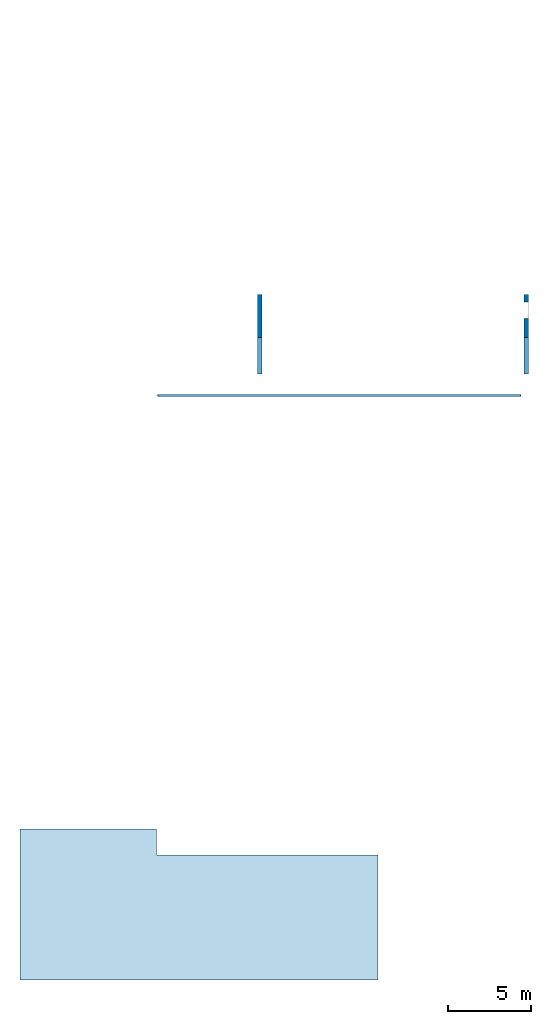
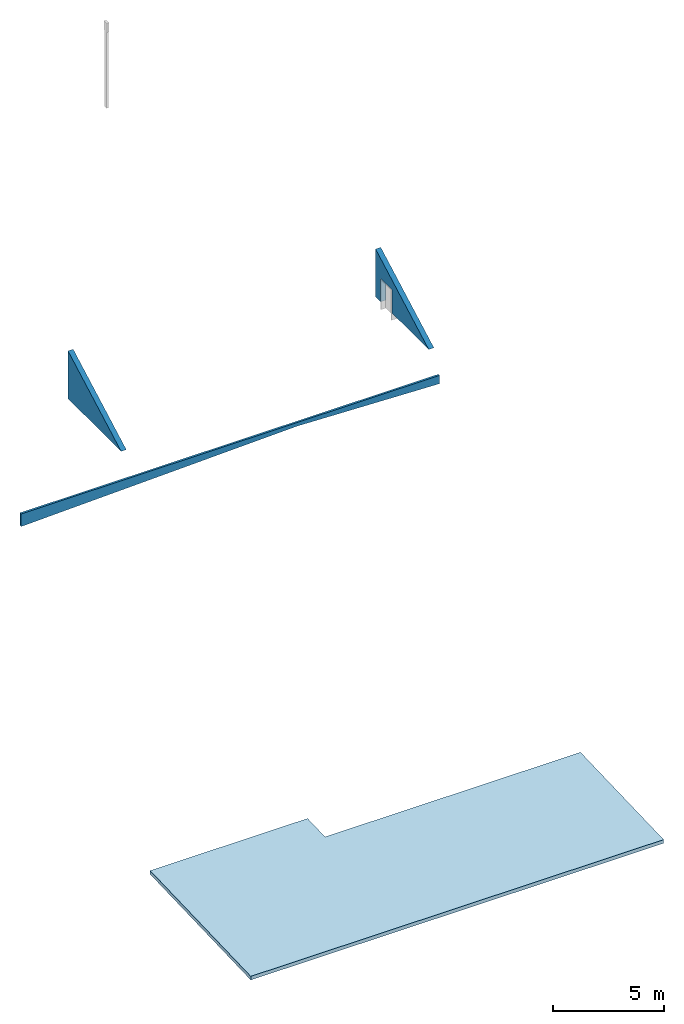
# One storey, part 1 of 3: 3 walls, 1 slab, 2 openings, 1 element without a shape of its own.
"""IFC2X3 building model written with IfcOpenShell, lengths in centimetres."""

from ifc_helpers import new_model, entity, si_unit, converted_unit, derived_unit, direction, frame, frame_2d, origin, place, context, subcontext, project, spatial, polyline, rectangle, outline, extrude, clip, halfspace, faceted_brep, material, layer, layer_set, layer_usage, type_object, element, aggregate, save


model = new_model("IFC2X3")

# Units and contexts
model_context = context("Model", 3, precision=0.001, world=origin(), true_north=direction((6.12303176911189e-17, 1.0)))
body_context = subcontext(model_context, "Body", "Model", "MODEL_VIEW")
ifc_project = project(units=[si_unit("LENGTHUNIT", "METRE", prefix="CENTI"), si_unit("AREAUNIT", "SQUARE_METRE"), si_unit("VOLUMEUNIT", "CUBIC_METRE"), converted_unit("PLANEANGLEUNIT", "DEGREE", entity("IfcRatioMeasure", 0.0174532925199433), si_unit("PLANEANGLEUNIT", "RADIAN"), dimensions=[0, 0, 0, 0, 0, 0, 0]), si_unit("MASSUNIT", "GRAM", prefix="KILO"), si_unit("TIMEUNIT", "SECOND"), si_unit("FREQUENCYUNIT", "HERTZ"), si_unit("THERMODYNAMICTEMPERATUREUNIT", "DEGREE_CELSIUS"), derived_unit("THERMALTRANSMITTANCEUNIT", [(si_unit("MASSUNIT", "GRAM", prefix="KILO"), 1), (si_unit("THERMODYNAMICTEMPERATUREUNIT", "KELVIN"), -1), (si_unit("TIMEUNIT", "SECOND"), -3)]), derived_unit("VOLUMETRICFLOWRATEUNIT", [(si_unit("LENGTHUNIT", "METRE"), 3), (si_unit("TIMEUNIT", "SECOND"), -1)]), si_unit("ELECTRICCURRENTUNIT", "AMPERE"), si_unit("ELECTRICVOLTAGEUNIT", "VOLT"), si_unit("POWERUNIT", "WATT"), si_unit("FORCEUNIT", "NEWTON", prefix="KILO"), si_unit("ILLUMINANCEUNIT", "LUX"), si_unit("LUMINOUSFLUXUNIT", "LUMEN"), si_unit("LUMINOUSINTENSITYUNIT", "CANDELA"), derived_unit("USERDEFINED", [(si_unit("MASSUNIT", "GRAM", prefix="KILO"), -1), (si_unit("LENGTHUNIT", "METRE"), -2), (si_unit("TIMEUNIT", "SECOND"), 3), (si_unit("LUMINOUSFLUXUNIT", "LUMEN"), 1)]), derived_unit("LINEARVELOCITYUNIT", [(si_unit("LENGTHUNIT", "METRE"), 1), (si_unit("TIMEUNIT", "SECOND"), -1)]), si_unit("PRESSUREUNIT", "PASCAL"), derived_unit("USERDEFINED", [(si_unit("LENGTHUNIT", "METRE"), -2), (si_unit("MASSUNIT", "GRAM", prefix="KILO"), 1), (si_unit("TIMEUNIT", "SECOND"), -2)])], contexts=[model_context])

# Site, building, storey
site_placement = place(None, frame((8.62739174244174, -249.285249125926, 0.0)))
site = spatial("IfcSite", under=ifc_project, at=site_placement, Name="Default", CompositionType="ELEMENT")
building_placement = place(site_placement, origin())
building = spatial("IfcBuilding", under=site, at=building_placement, CompositionType="ELEMENT")
storey_placement = place(building_placement, frame((0.0, 0.0, 722.0)))
storey = spatial("IfcBuildingStorey", under=building, at=storey_placement, Name="Acrotère E2", CompositionType="ELEMENT", Elevation=722.0)

# Roof, slab
roof_placement = place(storey_placement, frame((22.0, 22.0, -71.5)))
roof = element("IfcRoof", 1, at=roof_placement, inside=storey, Name="Toit de base:Toit_Multicouche_20 cm", ObjectType="Toit de base:Toit_Multicouche_20 cm", ShapeType="NOTDEFINED")
ifc_material_1 = material(Name="Toiture, membrane EPDM")
ifc_layer_1 = layer(ifc_material_1, 2.0)
ifc_material_2 = material(Name="Laine minérale")
ifc_layer_2 = layer(ifc_material_2, 10.5)
ifc_material_3 = material(Name="Acier")
ifc_layer_3 = layer(ifc_material_3, 7.5)
ifc_layer_set_1 = layer_set([ifc_layer_1, ifc_layer_2, ifc_layer_3], Name="Toit de base:Toit_Multicouche_20 cm")
slab_placement = place(roof_placement, origin())
slab = element("IfcSlab", 2, at=slab_placement, material=ifc_layer_set_1, Name="Toit de base:Toit_Multicouche_20 cm", ObjectType="Toit de base:Toit_Multicouche_20 cm", PredefinedType="ROOF", context=body_context, shape_type="SweptSolid", body=[
    extrude(outline(polyline([(-1076.45241390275, -454.777037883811), (1076.45241390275, -454.777037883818), (1076.45241390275, 296.680729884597), (-255.552413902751, 296.680729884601), (-255.552413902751, 454.777037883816), (-1076.45241390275, 454.777037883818), (-1076.45241390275, -454.777037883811)])), frame((1076.45241390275, 454.500000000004, 15.8714897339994), z_axis=(0.0, -0.0348994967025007, 0.999390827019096), x_axis=(1.0, 0.0, 0.0)), (0.0, 0.0348994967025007, 0.999390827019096), 20.0121908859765),
])
aggregate(roof, [slab])

# Wall
ifc_material_4 = material(Name="Tôle/Doublage(PROJET)")
ifc_layer_4 = layer(ifc_material_4, 4.0)
ifc_layer_5 = layer(ifc_material_2, 22.0)
ifc_material_5 = material(Name="Plateau-acier-perforé")
ifc_layer_6 = layer(ifc_material_5, 1.0)
ifc_layer_set_2 = layer_set([ifc_layer_4, ifc_layer_5, ifc_layer_6], Name="Mur de base:MET PROJET 4 + ISO 23 + MET 2 bis")
wall_type_1 = type_object("IfcWallType", Name="Mur de base:MET PROJET 4 + ISO 23 + MET 2 bis", PredefinedType="STANDARD", material=ifc_layer_set_2)
wall_1_placement = place(storey_placement, frame((1463.4048277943, 4146.47531195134, 133.0), z_axis=(0.0, 0.0, 1.0), x_axis=(0.0, -1.0, 0.0)))
element("IfcWall", 3, at=wall_1_placement, inside=storey, type_object=wall_type_1, Name="Mur de base:MET PROJET 4 + ISO 23 + MET 2 bis", ObjectType="Mur de base:MET PROJET 4 + ISO 23 + MET 2 bis", context=body_context, shape_type="Brep", body=[
    faceted_brep([(480.399999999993, -13.5, 0.0), (0.0, -13.5, 263.0), (0.0, -13.5, 0.0), (480.399999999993, 13.4999999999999, 0.0), (0.0, 13.4999999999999, 0.0), (0.0, 13.4999999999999, 263.0), (0.0, -12.5, 0.0), (480.399999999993, -12.5, 0.0)], [[[0, 1, 2]], [[3, 4, 5]], [[2, 1, 5, 4, 6]], [[1, 0, 7, 3, 5]], [[0, 2, 6, 7]], [[6, 4, 3, 7]]]),
])

# Wall, opening
wall_type_2 = type_object("IfcWallType", Name="Mur de base:MET PROJET 4 + ISO 23 + MET 1", PredefinedType="NOTDEFINED")
wall_2_placement = place(storey_placement, frame((3067.40482781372, 4146.47531195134, 133.0), z_axis=(0.0, 0.0, 1.0), x_axis=(0.0, -1.0, 0.0)))
wall_2 = element("IfcWall", 4, at=wall_2_placement, inside=storey, type_object=wall_type_2, Name="Mur de base:MET PROJET 4 + ISO 23 + MET 1", ObjectType="Mur de base:MET PROJET 4 + ISO 23 + MET 1", context=body_context, shape_type="Brep", body=[
    faceted_brep([(0.0, -13.5, 263.0), (0.0, -13.5, 0.0), (46.2945842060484, -13.4999999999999, 0.0), (46.2945842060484, -13.4999999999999, 127.500000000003), (146.294584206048, -13.4999999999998, 127.500000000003), (146.294584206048, -13.4999999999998, 0.0), (480.39999999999, -13.4999999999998, 0.0), (0.0, 13.4999999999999, 0.0), (0.0, 13.4999999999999, 263.0), (480.39999999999, 13.5000000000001, 0.0), (146.294584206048, 13.5000000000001, 0.0), (146.294584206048, 13.5000000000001, 127.500000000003), (46.2945842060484, 13.5, 127.500000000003), (46.2945842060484, 13.5, 0.0), (0.0, 12.5000000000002, 0.0), (46.2945842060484, 12.5000000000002, 0.0), (146.294584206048, 12.5000000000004, 0.0), (480.39999999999, 12.5000000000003, 0.0)], [[[0, 1, 2, 3, 4, 5, 6]], [[7, 8, 9, 10, 11, 12, 13]], [[1, 0, 8, 7, 14]], [[12, 3, 2, 15, 13]], [[3, 12, 11, 4]], [[4, 11, 10, 16, 5]], [[0, 6, 17, 9, 8]], [[9, 17, 16, 10]], [[17, 6, 5, 16]], [[1, 14, 15, 2]], [[14, 7, 13, 15]]]),
])
opening_1_placement = place(wall_2_placement, frame((46.2945842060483, -13.5, -41.0)))
element("IfcOpeningElement", 5, at=opening_1_placement, cuts=wall_2, Name="Simple(R)_bois_mu:93 x 165 cm:1", ObjectType="Opening", context=body_context, shape_type="SweptSolid", body=[
    extrude(rectangle(XDim=168.5, YDim=99.9999999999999, at=frame_2d((84.25, 50.0), x_axis=(1.0, 0.0))), frame((0.0, 0.0, 0.0), z_axis=(0.0, 1.0, 0.0), x_axis=(0.0, 0.0, 1.0)), (0.0, 0.0, 1.0), 27.0),
])

ifc_layer_7 = layer(ifc_material_2, 9.5)
ifc_material_6 = material(Name="Platelage métallique")
ifc_layer_8 = layer(ifc_material_6, 1.25)
ifc_layer_set_3 = layer_set([ifc_layer_7, ifc_layer_8], Name="Mur de base:ISO 10 + MET 3 -EX")
ifc_layer_usage = layer_usage(ifc_layer_set_3, "AXIS2", "POSITIVE", -5.375)
wall_type_3 = type_object("IfcWallType", Name="Mur de base:ISO 10 + MET 3 -EX", PredefinedType="STANDARD", material=ifc_layer_set_3)
wall_3_placement = place(storey_placement, frame((3033.90482761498, 3537.60560251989, 9.07325885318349), z_axis=(0.0, 0.0, 1.0), x_axis=(-1.0, 0.0, 0.0)))
wall_3 = element("IfcWallStandardCase", 6, at=wall_3_placement, inside=storey, type_object=wall_type_3, material=ifc_layer_usage, Name="Mur de base:ISO 10 + MET 3 -EX", ObjectType="Mur de base:ISO 10 + MET 3 -EX", context=body_context, shape_type="Clipping", body=[
    clip(extrude(rectangle(XDim=2182.56204603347, YDim=10.7500000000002, at=frame_2d((1091.28102301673, -1.77635683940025e-15), x_axis=(-1.0, 0.0))), origin(), (0.0, 0.0, 1.0), 69.9267411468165), halfspace(frame((0.0, 0.0, 24.0901550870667), z_axis=(-0.0110052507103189, 0.0, -0.999939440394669), x_axis=(0.0, 1.0, 0.0)), False)),
])
opening_2_placement = place(wall_3_placement, origin())
element("IfcOpeningElement", 7, at=opening_2_placement, cuts=wall_3, Name="Mur de base:ISO 10 + MET 3 -EX", ObjectType="Opening", context=body_context, shape_type="SweptSolid", body=[
    extrude(outline(polyline([(-976.325768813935, -11.3705270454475), (1210.19713264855, -11.3705270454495), (-233.871363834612, 22.7410540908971), (-976.325768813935, -11.3705270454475)])), frame((976.391778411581, 5.37500000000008, 24.7152836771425), z_axis=(0.0, -1.0, 0.0), x_axis=(0.999939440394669, 0.0, -0.0110052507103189)), (0.0, 0.0, 1.0), 10.75),
])

save(model, "model.ifc")
